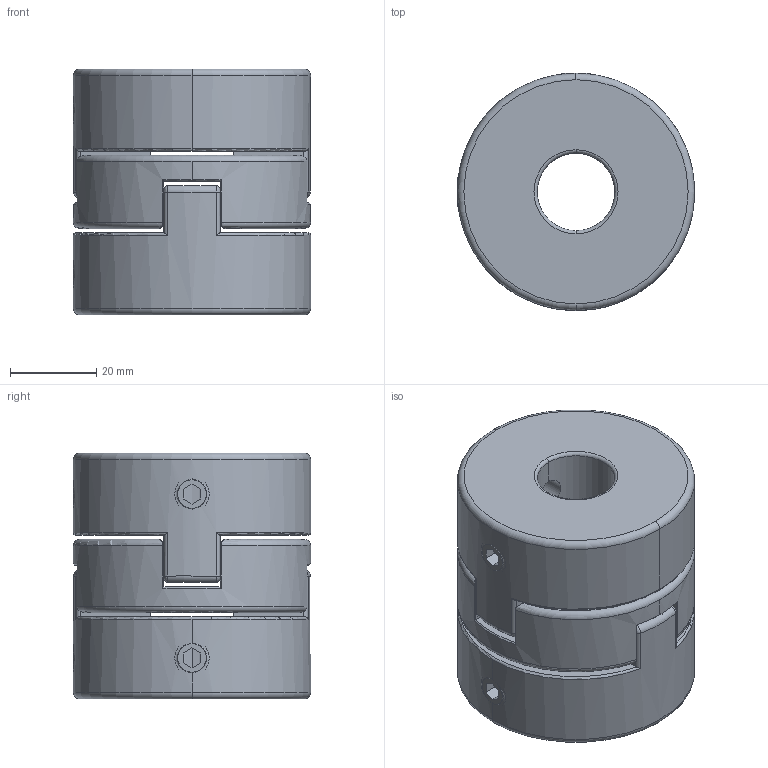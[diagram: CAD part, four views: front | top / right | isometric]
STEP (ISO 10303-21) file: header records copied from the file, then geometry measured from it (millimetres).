
FILE_DESCRIPTION (( 'STEP AP203' ), '1' );
FILE_NAME ('FAMJ55-18x18.STEP', '2014-02-17T00:37:05', ( '123' ), ( '' ), 'SwSTEP 2.0', 'SolidWorks 2013', '' );
FILE_SCHEMA (( 'CONFIG_CONTROL_DESIGN' ));
Length unit declared in the file: millimetre
Products named in the file (1): FAMJ55-18x18
Bounding box: 55 x 55 x 57 mm (x, y, z)
Surface area: 26159.3 mm2 (no closed solid volume)
Topology: 0 solids, 7 shells, 152 faces, 430 edges, 280 vertices
Faces by surface type: plane 74, cylinder 26, torus 23, bspline 16, cone 13
Entity records: 6062 total; most frequent: CARTESIAN_POINT 2257, ORIENTED_EDGE 760, DIRECTION 735, EDGE_CURVE 430, VERTEX_POINT 280, AXIS2_PLACEMENT_3D 272, LINE 191, VECTOR 191
